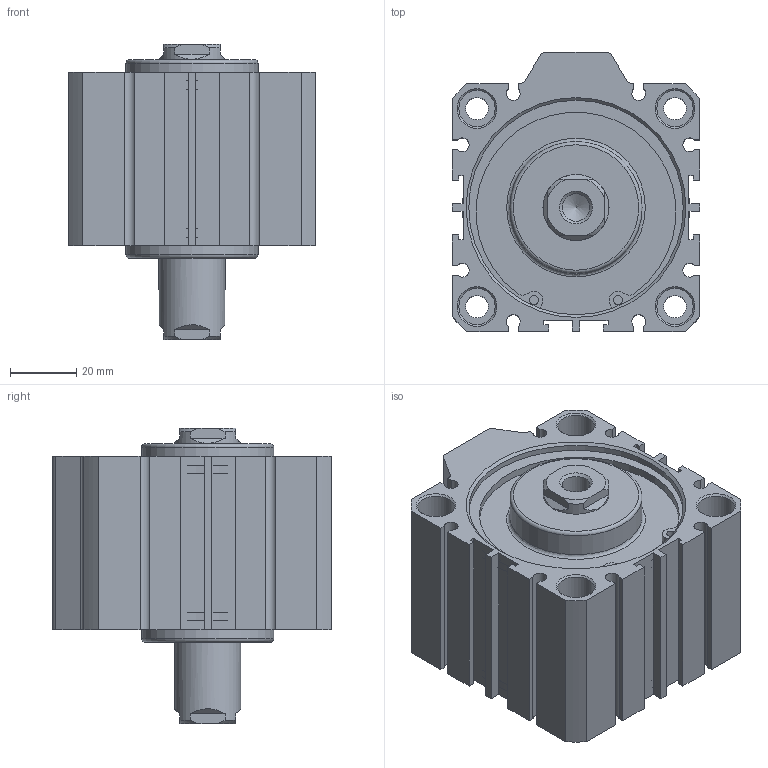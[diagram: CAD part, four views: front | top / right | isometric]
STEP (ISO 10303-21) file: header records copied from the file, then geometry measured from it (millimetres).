
FILE_DESCRIPTION((''),'2;1');
FILE_NAME('I:\3D電子目錄\氣缸\JDD\JDD\JDD63\JDD63x20.stp','2007-02-08T11:24:01',('662F206'),(''),'Autodesk Inventor 10','Autodesk Inventor 10','');
FILE_SCHEMA(('AUTOMOTIVE_DESIGN { 1 0 10303 214 1 1 1 1 }'));
Length unit declared in the file: millimetre
Products named in the file (3): JDD63; R 形環 65
Assembly tree (3 placements, depth 2):
  JDD63
    JDD63
    R 形環 65  x2
Bounding box: 75 x 84.5 x 89.5 mm (x, y, z)
Volume: 273863.9 mm3; surface area: 52824 mm2
Topology: 3 solids, 3 shells, 204 faces, 514 edges, 338 vertices
Faces by surface type: plane 116, cylinder 56, cone 24, bspline 6, torus 2
Full cylindrical faces by diameter (mm): 2.7 x4, 3 x2, 6.8 x4, 11 x8, 20 x2, 40 x2, 65 x4, 68 x2
Entity records: 5651 total; most frequent: CARTESIAN_POINT 1118, DIRECTION 936, ORIENTED_EDGE 848, EDGE_CURVE 424, AXIS2_PLACEMENT_3D 336, VERTEX_POINT 308, EDGE_LOOP 276, VECTOR 264
